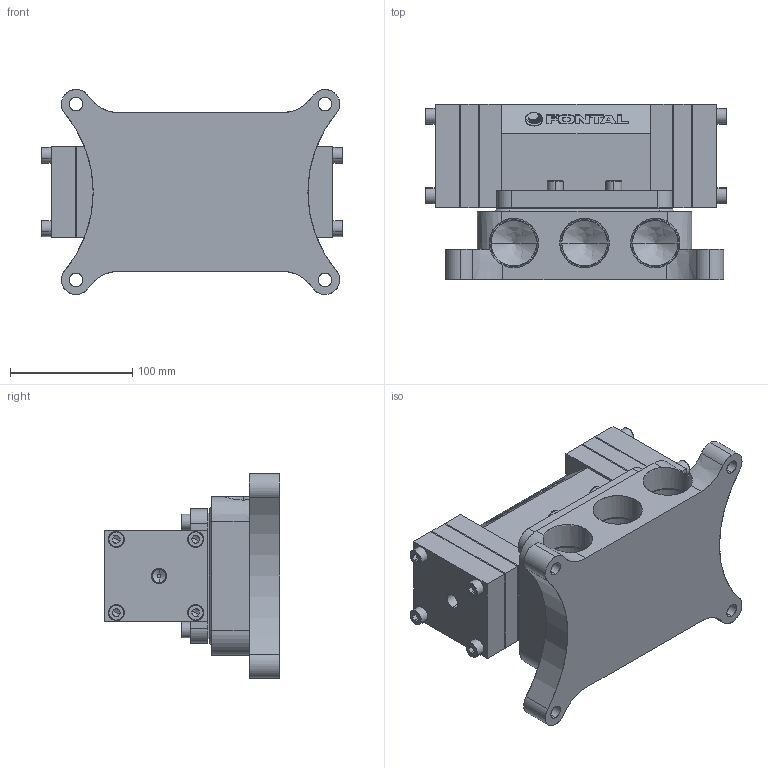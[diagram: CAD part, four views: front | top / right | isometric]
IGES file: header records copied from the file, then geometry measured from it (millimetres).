
Start section: SolidWorks IGES file using analytic representation for surfaces
Global section: file name: D:\Custom\3D繪製\VM\VM25\VMD3425-10.IGS,1; native system: 5HSolidWorks 2014; preprocessor: SolidWorks 2014; author: Chieh_Lu; date: 160114.023515; units: millimetre
Bounding box: 247 x 144 x 168 mm (x, y, z)
Surface area: 361217.7 mm2 (no closed solid volume)
Topology: 0 solids, 0 shells, 620 faces, 7530 edges, 7496 vertices
Faces by surface type: bspline 405, revolution 215
